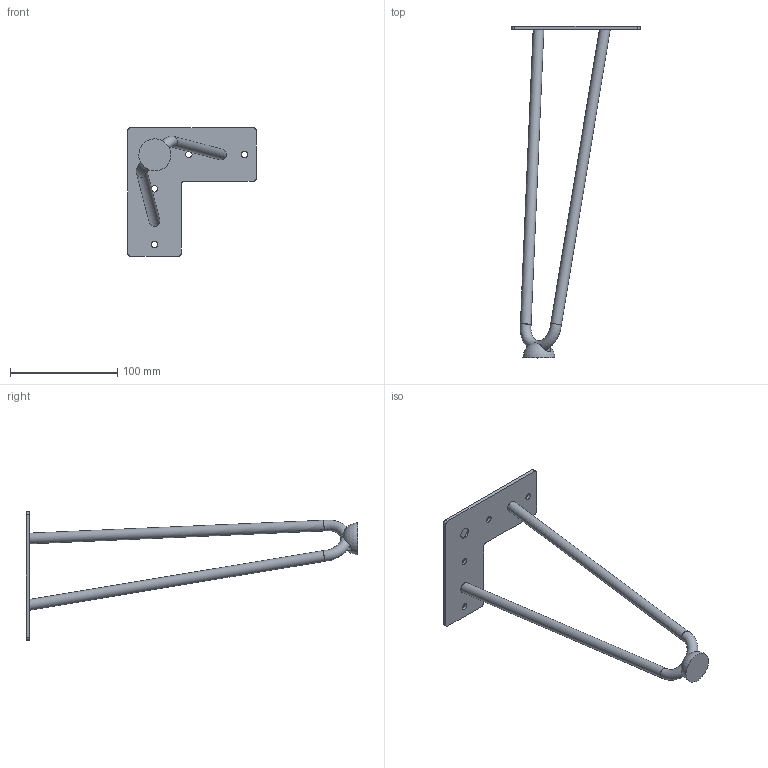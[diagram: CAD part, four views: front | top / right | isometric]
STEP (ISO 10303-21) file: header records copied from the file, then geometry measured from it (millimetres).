
FILE_DESCRIPTION(/* description */ (''),/* implementation_level */ '2;1');
FILE_NAME(/* name */ 'D:\$WorkingFolder\Designs\Meblowka\Nóżki meblowe\NM-ARTO\NM-ARTO-..-.R...-20M\NM-ARTO-10-2R304-20M_stopka.stp',/* time_stamp */ '2020-11-09T11:51:19+01:00',/* author */ ('ElizaL'),/* organization */ (''),/* preprocessor_version */ 'ST-DEVELOPER v18.1',/* originating_system */ 'Autodesk Inventor 2020',/* authorisation */ '');
FILE_SCHEMA (('AUTOMOTIVE_DESIGN { 1 0 10303 214 3 1 1 }'));
Length unit declared in the file: millimetre
Products named in the file (1): NM-ARTO-10-2R304-20M_stopka
Bounding box: 120 x 309.97 x 120 mm (x, y, z)
Volume: 82622.9 mm3; surface area: 42631.9 mm2
Topology: 3 solids, 3 shells, 38 faces, 98 edges, 69 vertices
Faces by surface type: cylinder 20, plane 16, torus 1, sphere 1
Full cylindrical faces by diameter (mm): 6 x4, 10 x7
Entity records: 1342 total; most frequent: CARTESIAN_POINT 300, DIRECTION 225, ORIENTED_EDGE 196, EDGE_CURVE 98, AXIS2_PLACEMENT_3D 94, VERTEX_POINT 69, EDGE_LOOP 49, CIRCLE 47
